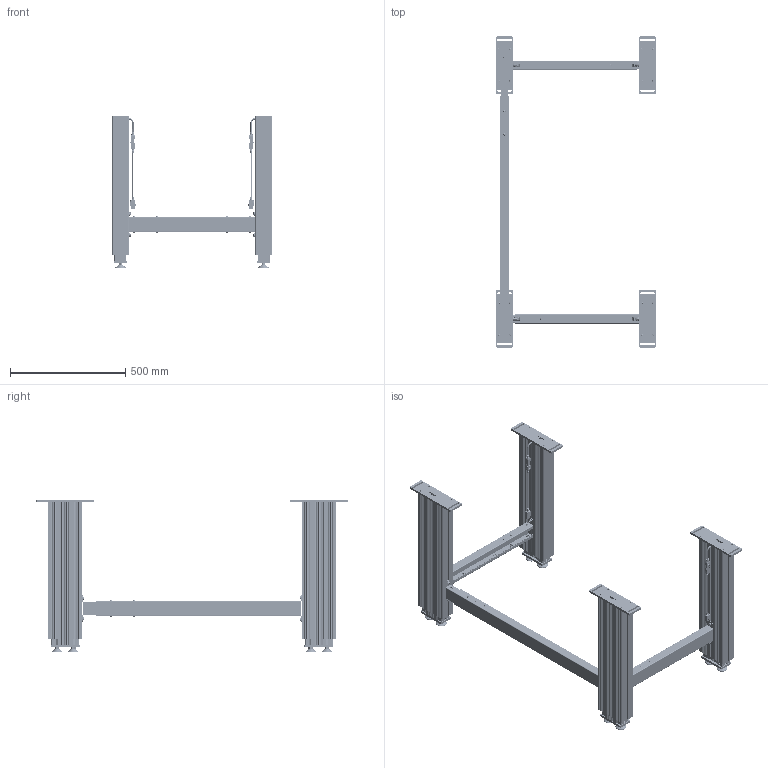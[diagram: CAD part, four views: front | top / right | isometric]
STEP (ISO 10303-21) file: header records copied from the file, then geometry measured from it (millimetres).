
FILE_DESCRIPTION(/* description */ ('Unknown'),/* implementation_level */ '2;1');
FILE_NAME(/* name */ 'Untergestell SM 4340 1050-1700 XX XX_00-Eingefahren',/* time_stamp */ '2022-08-15T09:22:49+02:00',/* author */ ('Unknown'),/* organization */ ('Unknown'),/* preprocessor_version */ 'ST-DEVELOPER v18.102',/* originating_system */ 'Solid Edge',/* authorisation */ 'Unknown');
FILE_SCHEMA (('AUTOMOTIVE_DESIGN {1 0 10303 214 3 1 1}'));
Products named in the file (47): Untergestell SM 4340 1050-1700 XX XX; 902.01024_oa_0; 126.00138; 119.00312; 119.00311; 142.00166; 124.00201_oa_1; 142.00241; 110.00113_oa_2; 115.00200_oa_3; 124.00151; Kabel Motor Sx; 142.00343; 127.00329; 113.00006; 113.00006-ohne Mutter; Mutter M10; 902.01024_oa_4; 124.00201_oa_5; 110.00113_oa_6; 115.00200_oa_7; 902.01024_oa_8; 124.00201_oa_9; 110.00113_oa_10; 115.00200_oa_11; 902.01024_oa_12; 124.00201_oa_13; 110.00113_oa_14; 115.00200_oa_15; 127.00631; 096599~1; 096600~1; Sechskantmutter M6 DIN 934; Scheibe Ø6,4 DIN 125; Halbrundkopfschraube mit Innensechskant M8x12 ISO 7380-1; Scheibe Ø8,4 DIN 125; Nutenstein M8_montiert; Halbrundkopfschraube mit Innensechskant und Bund M6x16 ISO 7380-2; 127.00632; 096611~1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
Assembly tree (137 placements, depth 3):
  Untergestell SM 4340 1050-1700 XX XX
    902.01024_oa_0
      126.00138
      119.00312
      119.00311
      142.00166  x4
      124.00201_oa_1
      142.00241  x2
      110.00113_oa_2
      115.00200_oa_3
      124.00151
      Kabel Motor Sx
      142.00343  x2
    127.00329  x4
    113.00006  x8
      113.00006-ohne Mutter
      Mutter M10
    902.01024_oa_4
      126.00138
      119.00312
      119.00311
      142.00166  x4
      124.00201_oa_5
      142.00241  x2
      110.00113_oa_6
      115.00200_oa_7
      124.00151
      Kabel Motor Sx
      142.00343  x2
    902.01024_oa_8
      126.00138
      119.00312
      119.00311
      142.00166  x4
      124.00201_oa_9
      142.00241  x2
      110.00113_oa_10
      115.00200_oa_11
      124.00151
      Kabel Motor Sx
      142.00343  x2
    902.01024_oa_12
      126.00138
      119.00312
      119.00311
      142.00166  x4
      124.00201_oa_13
      142.00241  x2
      110.00113_oa_14
      115.00200_oa_15
      124.00151
      Kabel Motor Sx
      142.00343  x2
    127.00631  x2
      096599~1
      096600~1
      Sechskantmutter M6 DIN 934
      Scheibe Ø6,4 DIN 125
      Halbrundkopfschraube mit Innensechskant M8x12 ISO 7380-1
      Scheibe Ø8,4 DIN 125
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Bounding box: 690 x 1350 x 663 mm (x, y, z)
Volume: 12412989.4 mm3; surface area: 6485271.7 mm2
Topology: 150 solids, 150 shells, 16468 faces, 45782 edges, 30178 vertices
Faces by surface type: plane 9192, cylinder 5920, torus 636, bspline 436, cone 248, sphere 36
Full cylindrical faces by diameter (mm): 1.5 x24, 1.82 x24, 2.459 x4, 2.7 x24, 3.242 x8, 3.4 x4, 4 x16, 5 x20, 5.5 x16, 6 x36, 6.4 x12, 6.6 x16, 6.647 x12, 7 x8, 8 x20, 8.376 x20, 8.5 x64, 8.7 x16, 9.5 x8, 10 x8, 12 x12, 12.5 x16, 13.6 x12, 14 x12, 15 x8, 16.8 x12, 19 x8, 25 x8, 29 x8, 30 x8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
Entity records: 154631 total; most frequent: CARTESIAN_POINT 28807, ORIENTED_EDGE 22276, DIRECTION 21940, EDGE_CURVE 11138, VERTEX_POINT 7449, AXIS2_PLACEMENT_3D 7400, LINE 7140, VECTOR 7140
